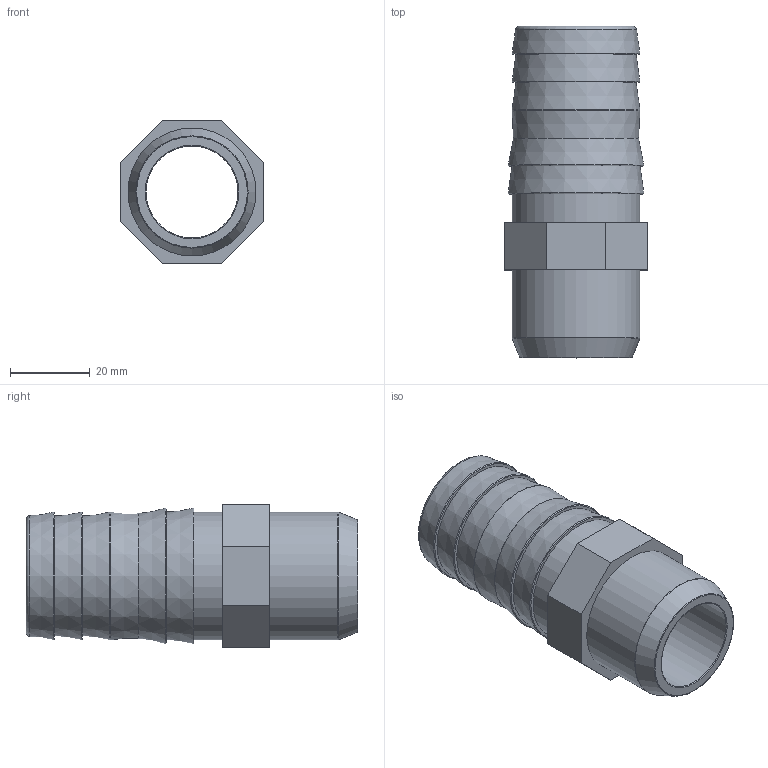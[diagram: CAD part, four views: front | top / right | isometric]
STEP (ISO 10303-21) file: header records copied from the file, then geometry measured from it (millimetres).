
FILE_DESCRIPTION(/* description */ (''),/* implementation_level */ '2;1');
FILE_NAME(/* name */ 'C:\Users\POLYPIPE\Desktop\DATASET INVENTOR\LIBRERIA EFFAST\RACCORDI 3DxWEB\RDR\3D_RDRPGD\3D_RDRPGD0320.stp',/* time_stamp */ '2018-01-19T15:12:27+01:00',/* author */ ('POLYPIPE'),/* organization */ ('Polypipe Italia'),/* preprocessor_version */ 'ST-DEVELOPER v16.1',/* originating_system */ 'Autodesk Inventor 2016',/* authorisation */ '');
FILE_SCHEMA (('CONFIG_CONTROL_DESIGN'));
Length unit declared in the file: millimetre
Products named in the file (1): 3D_RDRPGD0320
Bounding box: 36 x 83 x 36 mm (x, y, z)
Volume: 34369.3 mm3; surface area: 15909.3 mm2
Topology: 1 solids, 1 shells, 37 faces, 73 edges, 44 vertices
Faces by surface type: plane 16, torus 11, cone 7, cylinder 3
Full cylindrical faces by diameter (mm): 23 x1, 32 x2
Entity records: 866 total; most frequent: DIRECTION 156, CARTESIAN_POINT 134, ORIENTED_EDGE 104, EDGE_LOOP 66, AXIS2_PLACEMENT_3D 66, EDGE_CURVE 52, VERTEX_POINT 44, FACE_OUTER_BOUND 37
